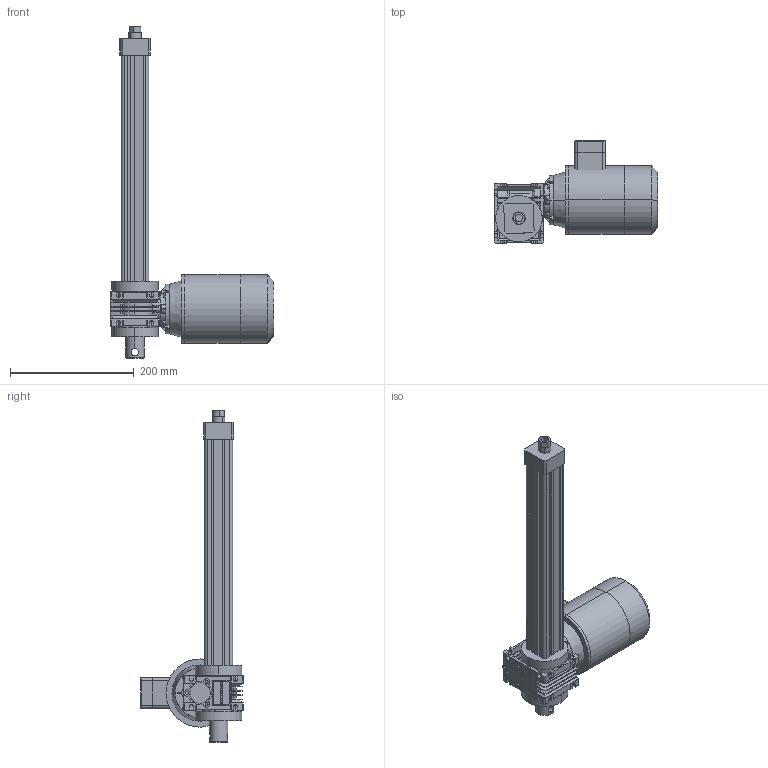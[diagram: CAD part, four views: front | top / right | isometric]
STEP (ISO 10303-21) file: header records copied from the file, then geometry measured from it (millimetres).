
FILE_DESCRIPTION (( 'STEP AP214' ), '1' );
FILE_NAME ('Ass RV32 TR C300.STEP', '2016-11-20T06:20:09', ( 'Hubert' ), ( '' ), 'SwSTEP 2.0', 'SolidWorks 2014', '' );
FILE_SCHEMA (( 'AUTOMOTIVE_DESIGN' ));
Length unit declared in the file: millimetre
Products named in the file (15): _05610; _0561B14; _0560; _30-56 B14_2; _VB 030-09 (9)_2; _030-14 (63)_3; _Gear unit 30_3; Ass RV32 TR C300; PAAV 32 dif; Tube RV32 TR C300; Profile RV32 TR C300; Vis RV32 TR C300; PAAR RV32 dif; Chape AR RV 32; NMRV030 B14 mot T56
Assembly tree (14 placements, depth 3):
  Ass RV32 TR C300
    NMRV030 B14 mot T56
      _Gear unit 30_3
      _030-14 (63)_3
      _VB 030-09 (9)_2
      _30-56 B14_2
      _0560
      _0561B14
      _05610
    Chape AR RV 32
    PAAR RV32 dif
    Vis RV32 TR C300
    Profile RV32 TR C300
    Tube RV32 TR C300
    PAAV 32 dif
Bounding box: 264 x 166 x 535.5 mm (x, y, z)
Volume: 2749488.9 mm3; surface area: 466093.8 mm2
Topology: 13 solids, 20 shells, 1075 faces, 2831 edges, 1837 vertices
Faces by surface type: plane 687, cylinder 308, cone 80
Entity records: 44612 total; most frequent: CARTESIAN_POINT 6395, ORIENTED_EDGE 5630, DIRECTION 5627, EDGE_CURVE 2815, LINE 1969, VECTOR 1969, VERTEX_POINT 1837, AXIS2_PLACEMENT_3D 1829
